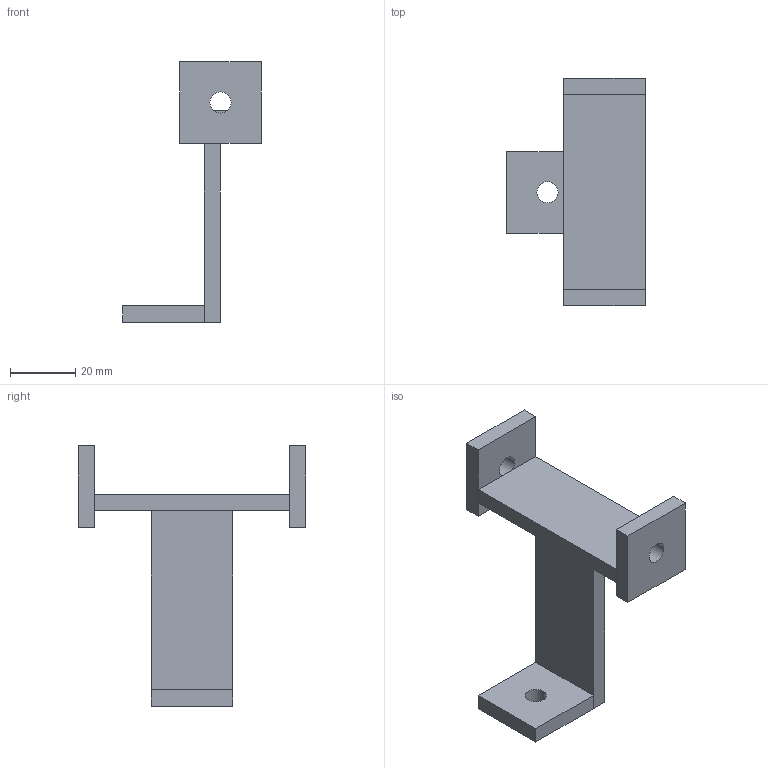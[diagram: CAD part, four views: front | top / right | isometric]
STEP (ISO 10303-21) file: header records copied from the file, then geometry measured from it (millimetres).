
FILE_DESCRIPTION (( 'STEP AP214' ), '1' );
FILE_NAME ('Assemblage Aileron Soudure.STEP', '2022-07-14T15:57:40', ( '' ), ( '' ), 'SwSTEP 2.0', 'SolidWorks 2021', '' );
FILE_SCHEMA (( 'AUTOMOTIVE_DESIGN' ));
Length unit declared in the file: millimetre
Products named in the file (3): Assemblage Aileron Soudure; Mat aileron; Base aileron
Assembly tree (5 placements, depth 2):
  Assemblage Aileron Soudure
    Base aileron  x3
    Mat aileron  x2
Bounding box: 42.5 x 70 x 80 mm (x, y, z)
Volume: 23877.3 mm3; surface area: 13057.2 mm2
Topology: 5 solids, 5 shells, 36 faces, 78 edges, 52 vertices
Faces by surface type: plane 30, cylinder 6
Entity records: 516 total; most frequent: DIRECTION 78, CARTESIAN_POINT 72, ORIENTED_EDGE 60, EDGE_CURVE 30, VECTOR 26, AXIS2_PLACEMENT_3D 26, LINE 26, VERTEX_POINT 20
